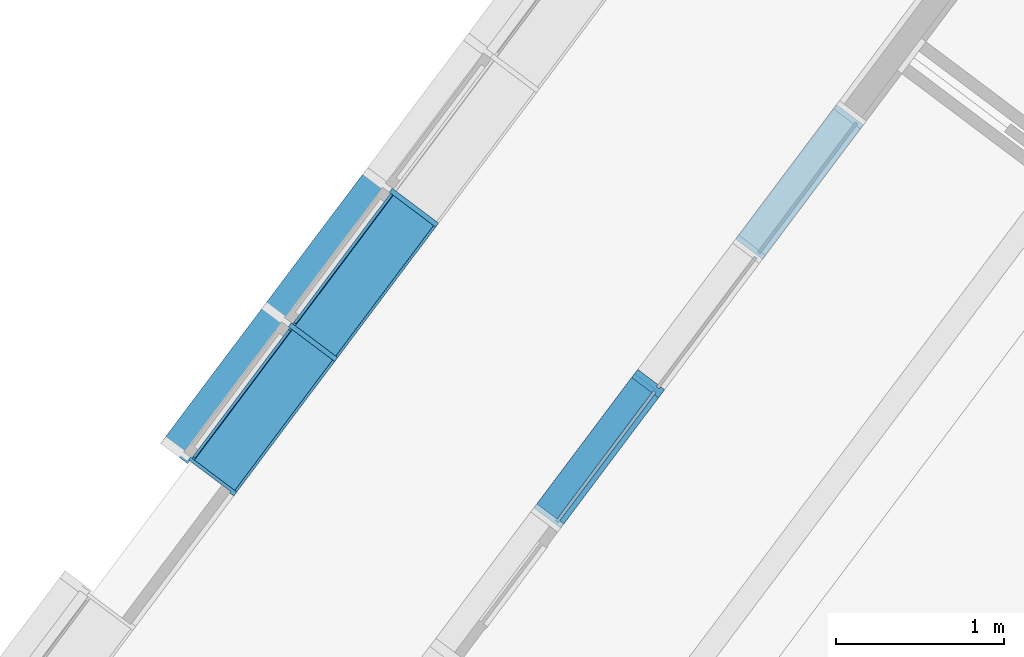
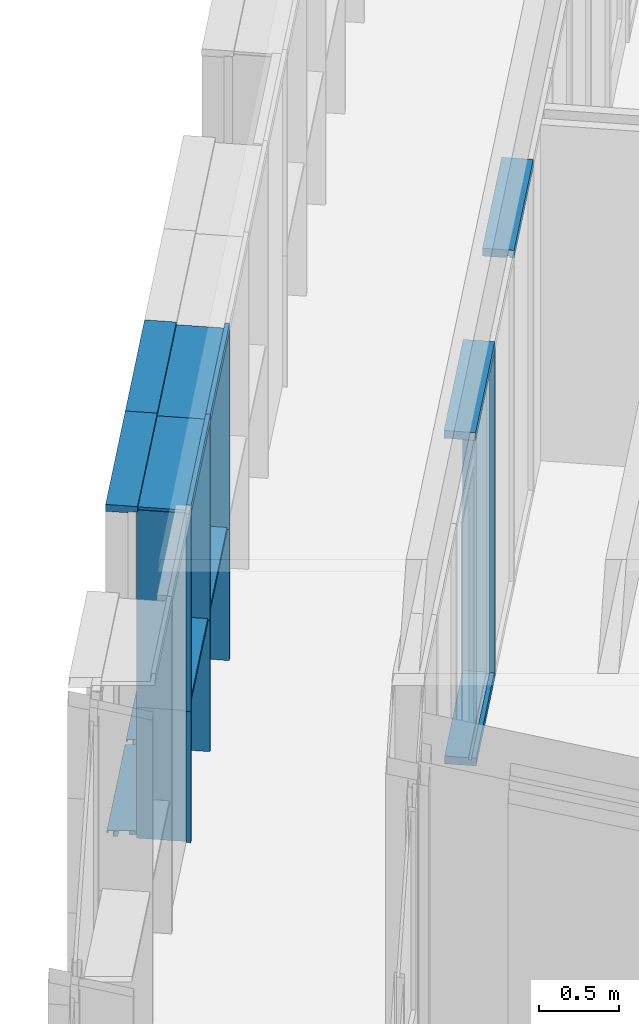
# One storey, part 55 of 243: 18 members, 3 elements without a shape of their own.
"""IFC2X3 building model written with IfcOpenShell, lengths in metres."""

from ifc_helpers import new_model, entity, si_unit, converted_unit, derived_unit, direction, frame, frame_2d, origin, place, context, subcontext, project, spatial, polyline, circle_curve, parameter, trimmed, segment, composite_curve, rectangle, outline, extrude, source, transform, mapped, material, type_object, type_shapes, element, aggregate, save


model = new_model("IFC2X3")

# Units and contexts
model_context = context("Model", 3, precision=1e-05, world=origin(), true_north=direction((6.123031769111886e-17, 1.0)))
body_context = subcontext(model_context, "Body", "Model", "MODEL_VIEW")
ifc_project = project(units=[si_unit("LENGTHUNIT", "METRE"), si_unit("AREAUNIT", "SQUARE_METRE"), si_unit("VOLUMEUNIT", "CUBIC_METRE"), converted_unit("PLANEANGLEUNIT", "DEGREE", entity("IfcRatioMeasure", 0.017453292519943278), si_unit("PLANEANGLEUNIT", "RADIAN"), dimensions=[0, 0, 0, 0, 0, 0, 0]), si_unit("MASSUNIT", "GRAM", prefix="KILO"), derived_unit("MASSDENSITYUNIT", [(si_unit("MASSUNIT", "GRAM", prefix="KILO"), 1), (si_unit("LENGTHUNIT", "METRE"), -3)]), derived_unit("IONCONCENTRATIONUNIT", [(si_unit("MASSUNIT", "GRAM", prefix="KILO"), 1), (si_unit("LENGTHUNIT", "METRE"), -3)]), derived_unit("MOMENTOFINERTIAUNIT", [(si_unit("LENGTHUNIT", "METRE"), 4)]), si_unit("TIMEUNIT", "SECOND"), si_unit("FREQUENCYUNIT", "HERTZ"), si_unit("THERMODYNAMICTEMPERATUREUNIT", "DEGREE_CELSIUS"), derived_unit("THERMALTRANSMITTANCEUNIT", [(si_unit("MASSUNIT", "GRAM", prefix="KILO"), 1), (si_unit("THERMODYNAMICTEMPERATUREUNIT", "KELVIN"), -1), (si_unit("TIMEUNIT", "SECOND"), -3)]), derived_unit("THERMALCONDUCTANCEUNIT", [(si_unit("MASSUNIT", "GRAM", prefix="KILO"), 1), (si_unit("THERMODYNAMICTEMPERATUREUNIT", "KELVIN"), -1), (si_unit("TIMEUNIT", "SECOND"), -3), (si_unit("LENGTHUNIT", "METRE"), 1)]), derived_unit("VOLUMETRICFLOWRATEUNIT", [(si_unit("LENGTHUNIT", "METRE"), 3), (si_unit("TIMEUNIT", "SECOND"), -1)]), derived_unit("MASSFLOWRATEUNIT", [(si_unit("MASSUNIT", "GRAM", prefix="KILO"), 1), (si_unit("TIMEUNIT", "SECOND"), -1)]), derived_unit("ROTATIONALFREQUENCYUNIT", [(si_unit("TIMEUNIT", "SECOND"), -1)]), si_unit("ELECTRICCURRENTUNIT", "AMPERE"), si_unit("ELECTRICVOLTAGEUNIT", "VOLT"), si_unit("POWERUNIT", "WATT"), si_unit("FORCEUNIT", "NEWTON", prefix="KILO"), si_unit("ILLUMINANCEUNIT", "LUX"), si_unit("LUMINOUSFLUXUNIT", "LUMEN"), si_unit("LUMINOUSINTENSITYUNIT", "CANDELA"), derived_unit("USERDEFINED", [(si_unit("MASSUNIT", "GRAM", prefix="KILO"), -1), (si_unit("LENGTHUNIT", "METRE"), -2), (si_unit("TIMEUNIT", "SECOND"), 3), (si_unit("LUMINOUSFLUXUNIT", "LUMEN"), 1)]), derived_unit("USERDEFINED", [(si_unit("MASSUNIT", "GRAM", prefix="KILO"), 1), (si_unit("TIMEUNIT", "SECOND"), -3), (si_unit("LENGTHUNIT", "METRE"), 3), (si_unit("ELECTRICCURRENTUNIT", "AMPERE"), -2)]), derived_unit("SOUNDPOWERUNIT", [(si_unit("MASSUNIT", "GRAM", prefix="KILO"), 1), (si_unit("TIMEUNIT", "SECOND"), -3), (si_unit("LENGTHUNIT", "METRE"), 2)]), derived_unit("SOUNDPRESSUREUNIT", [(si_unit("MASSUNIT", "GRAM", prefix="KILO"), 1), (si_unit("LENGTHUNIT", "METRE"), -1), (si_unit("TIMEUNIT", "SECOND"), -2)]), derived_unit("LINEARVELOCITYUNIT", [(si_unit("LENGTHUNIT", "METRE"), 1), (si_unit("TIMEUNIT", "SECOND"), -1)]), si_unit("PRESSUREUNIT", "PASCAL"), derived_unit("USERDEFINED", [(si_unit("MASSUNIT", "GRAM", prefix="KILO"), 1), (si_unit("LENGTHUNIT", "METRE"), -2), (si_unit("TIMEUNIT", "SECOND"), -2)]), derived_unit("LINEARFORCEUNIT", [(si_unit("MASSUNIT", "GRAM", prefix="KILO"), 1), (si_unit("TIMEUNIT", "SECOND"), -2)]), derived_unit("PLANARFORCEUNIT", [(si_unit("MASSUNIT", "GRAM", prefix="KILO"), 1), (si_unit("LENGTHUNIT", "METRE"), -1), (si_unit("TIMEUNIT", "SECOND"), -2)]), derived_unit("SPECIFICHEATCAPACITYUNIT", [(si_unit("THERMODYNAMICTEMPERATUREUNIT", "KELVIN"), -1), (si_unit("LENGTHUNIT", "METRE"), 2), (si_unit("TIMEUNIT", "SECOND"), -2)]), derived_unit("HEATINGVALUEUNIT", [(si_unit("LENGTHUNIT", "METRE"), 2), (si_unit("TIMEUNIT", "SECOND"), -2)]), derived_unit("VAPORPERMEABILITYUNIT", [(si_unit("LENGTHUNIT", "METRE"), -1), (si_unit("TIMEUNIT", "SECOND"), 1)]), derived_unit("DYNAMICVISCOSITYUNIT", [(si_unit("MASSUNIT", "GRAM", prefix="KILO"), 1), (si_unit("TIMEUNIT", "SECOND"), -1), (si_unit("LENGTHUNIT", "METRE"), -1)]), derived_unit("THERMALEXPANSIONCOEFFICIENTUNIT", [(si_unit("THERMODYNAMICTEMPERATUREUNIT", "KELVIN"), -1)]), derived_unit("MODULUSOFELASTICITYUNIT", [(si_unit("MASSUNIT", "GRAM", prefix="KILO"), 1), (si_unit("LENGTHUNIT", "METRE"), -1), (si_unit("TIMEUNIT", "SECOND"), -2)]), derived_unit("ISOTHERMALMOISTURECAPACITYUNIT", [(si_unit("LENGTHUNIT", "METRE"), 3), (si_unit("MASSUNIT", "GRAM", prefix="KILO"), -1)]), derived_unit("MOISTUREDIFFUSIVITYUNIT", [(si_unit("TIMEUNIT", "SECOND"), -1), (si_unit("LENGTHUNIT", "METRE"), 2)])], contexts=[model_context])

# Site, building, storey
site_placement = place(None, frame((0.0, 0.0, 235.0), z_axis=(0.0, 0.0, 1.0), x_axis=(-0.7996477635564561, 0.6004693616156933, 0.0)))
site = spatial("IfcSite", under=ifc_project, at=site_placement, Name="Default", CompositionType="ELEMENT")
building_placement = place(site_placement, origin())
building = spatial("IfcBuilding", under=site, at=building_placement, CompositionType="ELEMENT")
storey_placement = place(building_placement, origin())
storey = spatial("IfcBuildingStorey", under=building, at=storey_placement, Name="P0- Escola", CompositionType="ELEMENT", Elevation=0.0)

# Curtain wall, members
curtain_wall_type_1 = type_object("IfcCurtainWallType", Name="Muro cortina:MC- INT- a1", PredefinedType="NOTDEFINED")
curtain_wall_1_placement = place(storey_placement, origin())
curtain_wall_1 = element("IfcCurtainWall", 1, at=curtain_wall_1_placement, inside=storey, type_object=curtain_wall_type_1, Name="Muro cortina:MC- INT- a1", ObjectType="Muro cortina:MC- INT- a1")
ifc_material_1 = material(Name="_Fusta massisa- T1")
member_type_1 = type_object("IfcMemberType", Name="Montante rectangular:MC- Fusta- 20x6 cm- Neutre", PredefinedType="MULLION", material=ifc_material_1)
shared_shape_1 = source(origin(), body_context, "Body", "SweptSolid", [
    extrude(rectangle(XDim=0.2, YDim=0.060000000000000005, at=frame_2d((-4.85722573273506e-17, -3.469446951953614e-18), x_axis=(1.0, 0.0))), frame((-0.03, -0.060000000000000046, -1.0), z_axis=(0.0, 0.0, 1.0), x_axis=(0.0, -1.0, 0.0)), (0.0, 0.0, 1.0), 0.9999999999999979),
])
type_shapes(member_type_1, [shared_shape_1])
member_1_placement = place(curtain_wall_1_placement, frame((72.720147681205, -27.415189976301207, 2.565), z_axis=(0.0, -1.0, 0.0), x_axis=(0.0, 0.0, 1.0)))
member_1 = element("IfcMember", 2, at=member_1_placement, type_object=member_type_1, material=ifc_material_1, Name="Montante rectangular:MC- Fusta- 20x6 cm- Neutre", ObjectType="Montante rectangular:MC- Fusta- 20x6 cm- Neutre", context=body_context, shape_type="MappedRepresentation", body=[
    mapped(shared_shape_1, transform((0.0, 0.0, 0.0), scale=1.0)),
])
member_type_2 = type_object("IfcMemberType", Name="Montante rectangular:MC- Fusta- 20x6 cm- Esquerra", PredefinedType="MULLION", material=ifc_material_1)
shared_shape_2 = source(origin(), body_context, "Body", "SweptSolid", [
    extrude(outline(polyline([(-0.07000000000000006, -0.01875000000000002), (-0.04000000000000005, -0.01875000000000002), (-0.04000000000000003, -0.0037500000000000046), (-0.02, -0.0037500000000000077), (-0.019999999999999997, -0.018750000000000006), (0.13, -0.018749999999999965), (0.12999999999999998, 0.04125000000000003), (-0.06999999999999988, 0.04124999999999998), (-0.07000000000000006, -0.01875000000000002)])), frame((-0.041249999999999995, -0.029999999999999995, -1.0), z_axis=(0.0, 0.0, 1.0), x_axis=(0.0, -1.0, 0.0)), (0.0, 0.0, 1.0), 0.9999999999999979),
])
type_shapes(member_type_2, [shared_shape_2])
member_2_placement = place(curtain_wall_1_placement, frame((72.720147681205, -29.4151899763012, 2.565), z_axis=(0.0, -1.0, 0.0), x_axis=(0.0, 0.0, 1.0)))
member_2 = element("IfcMember", 3, at=member_2_placement, type_object=member_type_2, material=ifc_material_1, Name="Montante rectangular:MC- Fusta- 20x6 cm- Esquerra", ObjectType="Montante rectangular:MC- Fusta- 20x6 cm- Esquerra", context=body_context, shape_type="MappedRepresentation", body=[
    mapped(shared_shape_2, transform((0.0, 0.0, 0.0), scale=1.0)),
])
member_type_3 = type_object("IfcMemberType", Name="Montante rectangular:MC- Fusta- 20x6 cm- Centre", PredefinedType="MULLION", material=ifc_material_1)
shared_shape_3 = source(origin(), body_context, "Body", "SweptSolid", [
    extrude(outline(polyline([(-0.06000000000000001, -0.030000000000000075), (-0.03, -0.030000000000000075), (-0.029999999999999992, -0.015000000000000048), (-0.009999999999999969, -0.01499999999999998), (-0.009999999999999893, -0.030000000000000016), (0.14000000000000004, -0.029999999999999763), (0.13999999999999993, 0.030000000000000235), (-0.010000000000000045, 0.02999999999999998), (-0.01000000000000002, 0.014999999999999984), (-0.030000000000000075, 0.014999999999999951), (-0.03000000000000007, 0.029999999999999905), (-0.059999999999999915, 0.029999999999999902), (-0.06000000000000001, -0.030000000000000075)])), frame((0.0, -0.019999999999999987, -2.505000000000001), z_axis=(0.0, 0.0, 1.0), x_axis=(0.0, -1.0, 0.0)), (0.0, 0.0, 1.0), 2.5050000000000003),
])
type_shapes(member_type_3, [shared_shape_3])
member_3_placement = place(curtain_wall_1_placement, frame((72.720147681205, -27.415189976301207, 0.0), z_axis=(0.0, 0.0, -1.0), x_axis=(0.0, -1.0, 0.0)))
member_3 = element("IfcMember", 4, at=member_3_placement, type_object=member_type_3, material=ifc_material_1, Name="Montante rectangular:MC- Fusta- 20x6 cm- Centre", ObjectType="Montante rectangular:MC- Fusta- 20x6 cm- Centre", context=body_context, shape_type="MappedRepresentation", body=[
    mapped(shared_shape_3, transform((0.0, 0.0, 0.0), scale=1.0)),
])
member_type_4 = type_object("IfcMemberType", Name="Montante rectangular:MC- Fusta- 20x6 cm- Inferior", PredefinedType="MULLION", material=ifc_material_1)
shared_shape_4 = source(origin(), body_context, "Body", "SweptSolid", [
    extrude(outline(polyline([(-0.06999999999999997, -0.018750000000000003), (-0.039999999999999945, -0.018750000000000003), (-0.03999999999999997, -0.003750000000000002), (-0.019999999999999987, -0.0037500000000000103), (-0.019999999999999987, -0.018750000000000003), (0.13000000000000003, -0.018750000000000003), (0.13000000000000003, 0.041249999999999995), (-0.07000000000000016, 0.041249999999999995), (-0.06999999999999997, -0.018750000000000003)])), frame((-0.041249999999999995, -0.02999999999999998, -0.9399999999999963), z_axis=(0.0, 0.0, 1.0), x_axis=(0.0, -1.0, 0.0)), (0.0, 0.0, 1.0), 0.9399999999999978),
])
type_shapes(member_type_4, [shared_shape_4])
member_4_placement = place(curtain_wall_1_placement, frame((72.720147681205, -26.445189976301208, 0.0), z_axis=(0.0, 1.0, 0.0), x_axis=(0.0, 0.0, -1.0)))
member_4 = element("IfcMember", 5, at=member_4_placement, type_object=member_type_4, material=ifc_material_1, Name="Montante rectangular:MC- Fusta- 20x6 cm- Inferior", ObjectType="Montante rectangular:MC- Fusta- 20x6 cm- Inferior", context=body_context, shape_type="MappedRepresentation", body=[
    mapped(shared_shape_4, transform((0.0, 0.0, 0.0), scale=1.0)),
])
aggregate(curtain_wall_1, [member_2, member_1, member_3, member_4])

curtain_wall_type_2 = type_object("IfcCurtainWallType", Name="Muro cortina:MC- INT- k2", PredefinedType="NOTDEFINED")
curtain_wall_2_placement = place(storey_placement, origin())
curtain_wall_2 = element("IfcCurtainWall", 6, at=curtain_wall_2_placement, inside=storey, type_object=curtain_wall_type_2, Name="Muro cortina:MC- INT- k2", ObjectType="Muro cortina:MC- INT- k2")
member_type_5 = type_object("IfcMemberType", Name="Montante rectangular:MC- Fusta- 35x3 cm- Pati aules- Remat superior", PredefinedType="MULLION", material=ifc_material_1)
shared_shape_5 = source(origin(), body_context, "Body", "SweptSolid", [
    extrude(outline(polyline([(-0.12166666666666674, -0.02666666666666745), (0.21333333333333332, -0.02666666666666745), (0.2133333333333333, -0.006666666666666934), (-0.09166666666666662, -0.006666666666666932), (-0.09166666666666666, 0.03333333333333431), (-0.12166666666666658, 0.03333333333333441), (-0.12166666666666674, -0.02666666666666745)])), frame((-0.033333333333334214, -0.026666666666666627, -1.0), z_axis=(0.0, 0.0, 1.0), x_axis=(0.0, -1.0, 0.0)), (0.0, 0.0, 1.0), 0.9999999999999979),
])
type_shapes(member_type_5, [shared_shape_5])
member_5_placement = place(curtain_wall_2_placement, frame((74.44514768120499, -26.41519175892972, 2.565), z_axis=(0.0, -1.0, 0.0), x_axis=(0.0, 0.0, 1.0)))
member_5 = element("IfcMember", 7, at=member_5_placement, type_object=member_type_5, material=ifc_material_1, Name="Montante rectangular:MC- Fusta- 35x3 cm- Pati aules- Remat superior", ObjectType="Montante rectangular:MC- Fusta- 35x3 cm- Pati aules- Remat superior", context=body_context, shape_type="MappedRepresentation", body=[
    mapped(shared_shape_5, transform((0.0, 0.0, 0.0), scale=1.0)),
])
member_type_6 = type_object("IfcMemberType", Name="Montante rectangular:MC- Fusta- 35x3 cm- Centre", PredefinedType="MULLION", material=ifc_material_1)
shared_shape_6 = source(origin(), body_context, "Body", "SweptSolid", [
    extrude(rectangle(XDim=0.3450000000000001, YDim=0.030000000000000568, at=frame_2d((0.0, -1.3964523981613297e-16), x_axis=(1.0, 0.0))), frame((0.0, -0.07750000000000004, -1.0), z_axis=(0.0, 0.0, 1.0), x_axis=(0.0, -1.0, 0.0)), (0.0, 0.0, 1.0), 1.0),
])
type_shapes(member_type_6, [shared_shape_6])
member_6_placement = place(curtain_wall_2_placement, frame((74.44514768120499, -26.41519175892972, 0.0), z_axis=(0.0, 0.0, -1.0), x_axis=(0.0, -1.0, 0.0)))
member_6 = element("IfcMember", 8, at=member_6_placement, type_object=member_type_6, material=ifc_material_1, Name="Montante rectangular:MC- Fusta- 35x3 cm- Centre", ObjectType="Montante rectangular:MC- Fusta- 35x3 cm- Centre", context=body_context, shape_type="MappedRepresentation", body=[
    mapped(shared_shape_6, transform((0.0, 0.0, 0.0), scale=1.0)),
])
member_7_placement = place(curtain_wall_2_placement, frame((74.44514768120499, -27.415191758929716, 0.0), z_axis=(0.0, 0.0, -1.0), x_axis=(0.0, -1.0, 0.0)))
member_7 = element("IfcMember", 9, at=member_7_placement, type_object=member_type_6, material=ifc_material_1, Name="Montante rectangular:MC- Fusta- 35x3 cm- Centre", ObjectType="Montante rectangular:MC- Fusta- 35x3 cm- Centre", context=body_context, shape_type="MappedRepresentation", body=[
    mapped(shared_shape_6, transform((0.0, 0.0, 0.0), scale=1.0)),
])
member_type_7 = type_object("IfcMemberType", Name="Montante rectangular:MC- Fusta- 35x3 cm- Pati aules- Remat superior", PredefinedType="MULLION", material=ifc_material_1)
shared_shape_7 = source(origin(), body_context, "Body", "SweptSolid", [
    extrude(outline(polyline([(-0.12166666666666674, -0.02666666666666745), (0.21333333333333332, -0.02666666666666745), (0.2133333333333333, -0.006666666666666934), (-0.09166666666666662, -0.006666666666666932), (-0.09166666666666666, 0.03333333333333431), (-0.12166666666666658, 0.03333333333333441), (-0.12166666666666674, -0.02666666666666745)])), frame((-0.033333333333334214, -0.026666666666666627, -1.0), z_axis=(0.0, 0.0, 1.0), x_axis=(0.0, -1.0, 0.0)), (0.0, 0.0, 1.0), 0.9999999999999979),
])
type_shapes(member_type_7, [shared_shape_7])
member_8_placement = place(curtain_wall_2_placement, frame((74.44514768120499, -27.415191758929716, 2.565), z_axis=(0.0, -1.0, 0.0), x_axis=(0.0, 0.0, 1.0)))
member_8 = element("IfcMember", 10, at=member_8_placement, type_object=member_type_7, material=ifc_material_1, Name="Montante rectangular:MC- Fusta- 35x3 cm- Pati aules- Remat superior", ObjectType="Montante rectangular:MC- Fusta- 35x3 cm- Pati aules- Remat superior", context=body_context, shape_type="MappedRepresentation", body=[
    mapped(shared_shape_7, transform((0.0, 0.0, 0.0), scale=1.0)),
])
member_type_8 = type_object("IfcMemberType", Name="Montante rectangular:MC- Fusta- 35x3 cm- Pati aules- Remat esquerra", PredefinedType="MULLION", material=ifc_material_1)
shared_shape_8 = source(origin(), body_context, "Body", "SweptSolid", [
    extrude(outline(polyline([(-0.12500000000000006, -0.013333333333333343), (-0.09500000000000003, -0.013333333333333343), (-0.09499999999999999, -0.0033333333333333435), (0.22000000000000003, -0.003333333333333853), (0.22000000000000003, 0.016666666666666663), (-0.12500000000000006, 0.01666666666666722), (-0.12500000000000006, -0.013333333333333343)])), frame((-0.00166666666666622, -0.03000000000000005, -1.0), z_axis=(0.0, 0.0, 1.0), x_axis=(0.0, -1.0, 0.0)), (0.0, 0.0, 1.0), 1.0),
])
type_shapes(member_type_8, [shared_shape_8])
member_9_placement = place(curtain_wall_2_placement, frame((74.44514768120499, -25.415191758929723, 0.0), z_axis=(0.0, 0.0, -1.0), x_axis=(0.0, -1.0, 0.0)))
member_9 = element("IfcMember", 11, at=member_9_placement, type_object=member_type_8, material=ifc_material_1, Name="Montante rectangular:MC- Fusta- 35x3 cm- Pati aules- Remat esquerra", ObjectType="Montante rectangular:MC- Fusta- 35x3 cm- Pati aules- Remat esquerra", context=body_context, shape_type="MappedRepresentation", body=[
    mapped(shared_shape_8, transform((0.0, 0.0, 0.0), scale=1.0)),
])
member_type_9 = type_object("IfcMemberType", Name="Montante rectangular:MC- Fusta- 35x3 cm- Pati aules- Prestatge", PredefinedType="MULLION", material=ifc_material_1)
shared_shape_9 = source(origin(), body_context, "Body", "SweptSolid", [
    extrude(rectangle(XDim=0.30000000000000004, YDim=0.03000000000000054, at=frame_2d((0.0, -1.231653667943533e-16), x_axis=(1.0, 0.0))), frame((0.0, -0.07000000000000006, -0.9699999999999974), z_axis=(0.0, 0.0, 1.0), x_axis=(0.0, -1.0, 0.0)), (0.0, 0.0, 1.0), 0.969999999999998),
])
type_shapes(member_type_9, [shared_shape_9])
member_10_placement = place(curtain_wall_2_placement, frame((74.44514768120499, -26.40019175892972, 1.0), z_axis=(0.0, -1.0, 0.0), x_axis=(0.0, 0.0, 1.0)))
member_10 = element("IfcMember", 12, at=member_10_placement, type_object=member_type_9, material=ifc_material_1, Name="Montante rectangular:MC- Fusta- 35x3 cm- Pati aules- Prestatge", ObjectType="Montante rectangular:MC- Fusta- 35x3 cm- Pati aules- Prestatge", context=body_context, shape_type="MappedRepresentation", body=[
    mapped(shared_shape_9, transform((0.0, 0.0, 0.0), scale=1.0)),
])
member_11_placement = place(curtain_wall_2_placement, frame((74.44514768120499, -27.400191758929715, 1.0), z_axis=(0.0, -1.0, 0.0), x_axis=(0.0, 0.0, 1.0)))
member_11 = element("IfcMember", 13, at=member_11_placement, type_object=member_type_9, material=ifc_material_1, Name="Montante rectangular:MC- Fusta- 35x3 cm- Pati aules- Prestatge", ObjectType="Montante rectangular:MC- Fusta- 35x3 cm- Pati aules- Prestatge", context=body_context, shape_type="MappedRepresentation", body=[
    mapped(shared_shape_9, transform((0.0, 0.0, 0.0), scale=1.0)),
])
member_type_10 = type_object("IfcMemberType", Name="Montante rectangular:MC- Fusta- 35x3 cm- Centre", PredefinedType="MULLION", material=ifc_material_1)
shared_shape_10 = source(origin(), body_context, "Body", "SweptSolid", [
    extrude(rectangle(XDim=0.3450000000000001, YDim=0.030000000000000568, at=frame_2d((0.0, -1.3964523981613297e-16), x_axis=(1.0, 0.0))), frame((0.0, -0.07750000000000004, -1.504999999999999), z_axis=(0.0, 0.0, 1.0), x_axis=(0.0, -1.0, 0.0)), (0.0, 0.0, 1.0), 1.504999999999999),
])
type_shapes(member_type_10, [shared_shape_10])
member_12_placement = place(curtain_wall_2_placement, frame((74.44514768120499, -26.41519175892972, 1.0), z_axis=(0.0, 0.0, -1.0), x_axis=(0.0, -1.0, 0.0)))
member_12 = element("IfcMember", 14, at=member_12_placement, type_object=member_type_10, material=ifc_material_1, Name="Montante rectangular:MC- Fusta- 35x3 cm- Centre", ObjectType="Montante rectangular:MC- Fusta- 35x3 cm- Centre", context=body_context, shape_type="MappedRepresentation", body=[
    mapped(shared_shape_10, transform((0.0, 0.0, 0.0), scale=1.0)),
])
member_13_placement = place(curtain_wall_2_placement, frame((74.44514768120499, -27.415191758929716, 1.0), z_axis=(0.0, 0.0, -1.0), x_axis=(0.0, -1.0, 0.0)))
member_13 = element("IfcMember", 15, at=member_13_placement, type_object=member_type_10, material=ifc_material_1, Name="Montante rectangular:MC- Fusta- 35x3 cm- Centre", ObjectType="Montante rectangular:MC- Fusta- 35x3 cm- Centre", context=body_context, shape_type="MappedRepresentation", body=[
    mapped(shared_shape_10, transform((0.0, 0.0, 0.0), scale=1.0)),
])
member_type_11 = type_object("IfcMemberType", Name="Montante rectangular:MC- Fusta- 35x3 cm- Pati aules- Remat esquerra", PredefinedType="MULLION", material=ifc_material_1)
shared_shape_11 = source(origin(), body_context, "Body", "SweptSolid", [
    extrude(outline(polyline([(-0.12500000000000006, -0.013333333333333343), (-0.09500000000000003, -0.013333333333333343), (-0.09499999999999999, -0.0033333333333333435), (0.22000000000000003, -0.003333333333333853), (0.22000000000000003, 0.016666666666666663), (-0.12500000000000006, 0.01666666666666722), (-0.12500000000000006, -0.013333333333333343)])), frame((-0.00166666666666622, -0.03000000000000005, -1.504999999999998), z_axis=(0.0, 0.0, 1.0), x_axis=(0.0, -1.0, 0.0)), (0.0, 0.0, 1.0), 1.504999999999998),
])
type_shapes(member_type_11, [shared_shape_11])
member_14_placement = place(curtain_wall_2_placement, frame((74.44514768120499, -25.415191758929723, 1.0), z_axis=(0.0, 0.0, -1.0), x_axis=(0.0, -1.0, 0.0)))
member_14 = element("IfcMember", 16, at=member_14_placement, type_object=member_type_11, material=ifc_material_1, Name="Montante rectangular:MC- Fusta- 35x3 cm- Pati aules- Remat esquerra", ObjectType="Montante rectangular:MC- Fusta- 35x3 cm- Pati aules- Remat esquerra", context=body_context, shape_type="MappedRepresentation", body=[
    mapped(shared_shape_11, transform((0.0, 0.0, 0.0), scale=1.0)),
])
aggregate(curtain_wall_2, [member_9, member_5, member_6, member_8, member_7, member_10, member_11, member_14, member_12, member_13])

curtain_wall_type_3 = type_object("IfcCurtainWallType", Name="Muro cortina:MC- EXT- MC5", PredefinedType="NOTDEFINED")
curtain_wall_3_placement = place(storey_placement, origin())
curtain_wall_3 = element("IfcCurtainWall", 17, at=curtain_wall_3_placement, inside=storey, type_object=curtain_wall_type_3, Name="Muro cortina:MC- EXT- MC5", ObjectType="Muro cortina:MC- EXT- MC5")
ifc_material_2 = material(Name="_Alumini- T1- Perfil")
member_type_12 = type_object("IfcMemberType", Name="Montante rectangular:MC- Alu- 140x52,5 cm- Fa patis- inferior", PredefinedType="MULLION", material=ifc_material_2)
shared_shape_12 = source(origin(), body_context, "Body", "SweptSolid", [
    extrude(outline(composite_curve([segment(polyline([(-0.144167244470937, -0.02586710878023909), (-0.12786724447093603, -0.025867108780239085)]), True, "CONTINUOUS"), segment(polyline([(-0.12786724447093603, -0.025867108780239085), (-0.12786724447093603, -0.02316710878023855)]), True, "CONTINUOUS"), segment(polyline([(-0.12786724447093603, -0.02316710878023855), (-0.0678672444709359, -0.02316710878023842)]), True, "CONTINUOUS"), segment(polyline([(-0.0678672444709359, -0.02316710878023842), (0.07031215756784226, -0.010722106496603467)]), True, "CONTINUOUS"), segment(trimmed(circle_curve(frame_2d((0.07013275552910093, -0.008730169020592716), x_axis=(0.0897010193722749, -0.9959687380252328)), 0.0019999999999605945), [parameter(0.0)], [parameter(84.8535928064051)], True, "PARAMETER"), True, "CONTINUOUS"), segment(polyline([(0.07213275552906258, -0.00873016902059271), (0.07213275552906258, 0.0062663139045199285)]), True, "CONTINUOUS"), segment(trimmed(circle_curve(frame_2d((0.070132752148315, 0.006266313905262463), x_axis=(1.0, 0.0)), 0.002000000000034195), [parameter(0.0)], [parameter(90.00000002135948)], True, "PARAMETER"), True, "CONTINUOUS"), segment(polyline([(0.070132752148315, 0.00826631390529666), (0.06213275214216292, 0.008266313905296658)]), True, "CONTINUOUS"), segment(polyline([(0.06213275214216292, 0.008266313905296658), (0.06213275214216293, 0.006266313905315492)]), True, "CONTINUOUS"), segment(polyline([(0.06213275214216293, 0.006266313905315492), (0.06963275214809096, 0.006266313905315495)]), True, "CONTINUOUS"), segment(trimmed(circle_curve(frame_2d((0.06963275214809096, 0.005766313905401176), x_axis=(0.0, 1.0)), 0.0004999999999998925), [parameter(269.99999999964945)], [parameter(0.0)], True, "PARAMETER"), False, "CONTINUOUS"), segment(polyline([(0.07013275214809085, 0.0057663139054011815), (0.07013275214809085, -0.008730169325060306)]), True, "CONTINUOUS"), segment(polyline([(0.07013275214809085, -0.008730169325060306), (0.03213275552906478, -0.012152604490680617)]), True, "CONTINUOUS"), segment(polyline([(0.03213275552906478, -0.012152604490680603), (0.03213275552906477, 0.02913289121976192)]), True, "CONTINUOUS"), segment(polyline([(0.03213275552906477, 0.02913289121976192), (0.0021327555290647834, 0.02913289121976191)]), True, "CONTINUOUS"), segment(polyline([(0.0021327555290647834, 0.02913289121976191), (0.0021327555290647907, 0.027132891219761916)]), True, "CONTINUOUS"), segment(polyline([(0.0021327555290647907, 0.027132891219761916), (0.03013275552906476, 0.027132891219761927)]), True, "CONTINUOUS"), segment(polyline([(0.03013275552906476, 0.02713289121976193), (0.03013275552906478, -0.012332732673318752)]), True, "CONTINUOUS"), segment(polyline([(0.03013275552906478, -0.012332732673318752), (-0.06786724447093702, -0.021159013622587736)]), True, "CONTINUOUS"), segment(polyline([(-0.06786724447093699, -0.021159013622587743), (-0.067867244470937, 0.0091328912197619)]), True, "CONTINUOUS"), segment(polyline([(-0.06786724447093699, 0.0091328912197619), (-0.14416724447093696, 0.009132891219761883)]), True, "CONTINUOUS"), segment(polyline([(-0.14416724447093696, 0.009132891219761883), (-0.144167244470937, -0.02586710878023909)]), True, "CONTINUOUS")], self_intersect=False)), frame((-0.029132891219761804, -0.06786724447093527, -0.9474999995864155), z_axis=(0.0, 0.0, 1.0), x_axis=(0.0, -1.0, 0.0)), (0.0, 0.0, 1.0), 0.9474999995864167),
])
type_shapes(member_type_12, [shared_shape_12])
member_15_placement = place(curtain_wall_3_placement, frame((74.7451476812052, -25.441441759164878, -0.02), z_axis=(0.0, 1.0, 0.0), x_axis=(0.0, 0.0, -1.0)))
member_15 = element("IfcMember", 18, at=member_15_placement, type_object=member_type_12, material=ifc_material_2, Name="Montante rectangular:MC- Alu- 140x52,5 cm- Fa patis- inferior", ObjectType="Montante rectangular:MC- Alu- 140x52,5 cm- Fa patis- inferior", context=body_context, shape_type="MappedRepresentation", body=[
    mapped(shared_shape_12, transform((0.0, 0.0, 0.0), scale=1.0)),
])
member_type_13 = type_object("IfcMemberType", Name="Montante rectangular:MC- Alu- 140x52,5 cm- Fa patis- inferior", PredefinedType="MULLION", material=ifc_material_2)
shared_shape_13 = source(origin(), body_context, "Body", "SweptSolid", [
    extrude(outline(composite_curve([segment(polyline([(-0.144167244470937, -0.025867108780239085), (-0.12786724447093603, -0.02586710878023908)]), True, "CONTINUOUS"), segment(polyline([(-0.12786724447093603, -0.02586710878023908), (-0.12786724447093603, -0.023167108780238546)]), True, "CONTINUOUS"), segment(polyline([(-0.12786724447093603, -0.023167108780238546), (-0.0678672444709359, -0.023167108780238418)]), True, "CONTINUOUS"), segment(polyline([(-0.0678672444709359, -0.023167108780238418), (0.07031215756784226, -0.010722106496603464)]), True, "CONTINUOUS"), segment(trimmed(circle_curve(frame_2d((0.07013275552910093, -0.008730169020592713), x_axis=(0.0897010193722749, -0.9959687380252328)), 0.0019999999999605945), [parameter(0.0)], [parameter(84.8535928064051)], True, "PARAMETER"), True, "CONTINUOUS"), segment(polyline([(0.07213275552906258, -0.008730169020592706), (0.07213275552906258, 0.006266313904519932)]), True, "CONTINUOUS"), segment(trimmed(circle_curve(frame_2d((0.07013275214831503, 0.006266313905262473), x_axis=(1.0, 0.0)), 0.0020000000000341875), [parameter(0.0)], [parameter(90.00000002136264)], True, "PARAMETER"), True, "CONTINUOUS"), segment(polyline([(0.070132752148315, 0.008266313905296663), (0.06213275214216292, 0.008266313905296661)]), True, "CONTINUOUS"), segment(polyline([(0.06213275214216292, 0.008266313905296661), (0.06213275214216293, 0.006266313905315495)]), True, "CONTINUOUS"), segment(polyline([(0.06213275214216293, 0.006266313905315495), (0.06963275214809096, 0.006266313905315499)]), True, "CONTINUOUS"), segment(trimmed(circle_curve(frame_2d((0.06963275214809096, 0.005766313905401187), x_axis=(0.0, 1.0)), 0.0004999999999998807), [parameter(269.9999999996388)], [parameter(0.0)], True, "PARAMETER"), False, "CONTINUOUS"), segment(polyline([(0.07013275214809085, 0.005766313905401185), (0.07013275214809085, -0.008730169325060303)]), True, "CONTINUOUS"), segment(polyline([(0.07013275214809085, -0.008730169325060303), (0.03213275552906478, -0.012152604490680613)]), True, "CONTINUOUS"), segment(polyline([(0.03213275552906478, -0.0121526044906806), (0.03213275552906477, 0.029132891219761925)]), True, "CONTINUOUS"), segment(polyline([(0.03213275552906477, 0.029132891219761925), (0.0021327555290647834, 0.029132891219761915)]), True, "CONTINUOUS"), segment(polyline([(0.0021327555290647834, 0.029132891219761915), (0.0021327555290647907, 0.02713289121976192)]), True, "CONTINUOUS"), segment(polyline([(0.0021327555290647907, 0.02713289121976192), (0.03013275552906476, 0.02713289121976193)]), True, "CONTINUOUS"), segment(polyline([(0.03013275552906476, 0.027132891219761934), (0.03013275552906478, -0.012332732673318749)]), True, "CONTINUOUS"), segment(polyline([(0.03013275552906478, -0.012332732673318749), (-0.06786724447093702, -0.021159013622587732)]), True, "CONTINUOUS"), segment(polyline([(-0.06786724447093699, -0.02115901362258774), (-0.067867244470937, 0.009132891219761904)]), True, "CONTINUOUS"), segment(polyline([(-0.06786724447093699, 0.009132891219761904), (-0.14416724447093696, 0.009132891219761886)]), True, "CONTINUOUS"), segment(polyline([(-0.14416724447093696, 0.009132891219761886), (-0.144167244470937, -0.025867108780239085)]), True, "CONTINUOUS")], self_intersect=False)), frame((-0.029132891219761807, -0.06786724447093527, -0.9737499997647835), z_axis=(0.0, 0.0, 1.0), x_axis=(0.0, -1.0, 0.0)), (0.0, 0.0, 1.0), 0.9737499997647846),
])
type_shapes(member_type_13, [shared_shape_13])
member_16_placement = place(curtain_wall_3_placement, frame((74.7451476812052, -26.441441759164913, -0.02), z_axis=(0.0, 1.0, 0.0), x_axis=(0.0, 0.0, -1.0)))
member_16 = element("IfcMember", 19, at=member_16_placement, type_object=member_type_13, material=ifc_material_2, Name="Montante rectangular:MC- Alu- 140x52,5 cm- Fa patis- inferior", ObjectType="Montante rectangular:MC- Alu- 140x52,5 cm- Fa patis- inferior", context=body_context, shape_type="MappedRepresentation", body=[
    mapped(shared_shape_13, transform((0.0, 0.0, 0.0), scale=1.0)),
])
member_type_14 = type_object("IfcMemberType", Name="Montante rectangular:MC- Alu- 140x52,5 cm- Fa patis- Superior", PredefinedType="MULLION", material=ifc_material_2)
shared_shape_14 = source(origin(), body_context, "Body", "SweptSolid", [
    extrude(outline(polyline([(-0.026333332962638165, -0.021249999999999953), (0.11366666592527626, -0.021249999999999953), (0.11366666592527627, 0.031250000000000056), (-0.08733333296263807, 0.03125000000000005), (-0.0873333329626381, -0.010000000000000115), (-0.026333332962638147, -0.010000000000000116), (-0.026333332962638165, -0.021249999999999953)])), frame((-0.031250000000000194, -0.02733333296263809, -1.0), z_axis=(0.0, 0.0, 1.0), x_axis=(0.0, -1.0, 0.0)), (0.0, 0.0, 1.0), 1.0000000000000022),
])
type_shapes(member_type_14, [shared_shape_14])
member_17_placement = place(curtain_wall_3_placement, frame((74.7451476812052, -27.415191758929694, 2.545), z_axis=(0.0, -1.0, 0.0), x_axis=(0.0, 0.0, 1.0)))
member_17 = element("IfcMember", 20, at=member_17_placement, type_object=member_type_14, material=ifc_material_2, Name="Montante rectangular:MC- Alu- 140x52,5 cm- Fa patis- Superior", ObjectType="Montante rectangular:MC- Alu- 140x52,5 cm- Fa patis- Superior", context=body_context, shape_type="MappedRepresentation", body=[
    mapped(shared_shape_14, transform((0.0, 0.0, 0.0), scale=1.0)),
])
member_type_15 = type_object("IfcMemberType", Name="Montante rectangular:MC- Alu- 140x52,5 cm- Fa patis- Superior", PredefinedType="MULLION", material=ifc_material_2)
shared_shape_15 = source(origin(), body_context, "Body", "SweptSolid", [
    extrude(outline(polyline([(-0.026333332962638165, -0.021249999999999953), (0.11366666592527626, -0.021249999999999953), (0.11366666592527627, 0.031250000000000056), (-0.08733333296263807, 0.03125000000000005), (-0.0873333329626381, -0.010000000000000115), (-0.026333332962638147, -0.010000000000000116), (-0.026333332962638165, -0.021249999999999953)])), frame((-0.031250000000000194, -0.02733333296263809, -1.0262500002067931), z_axis=(0.0, 0.0, 1.0), x_axis=(0.0, -1.0, 0.0)), (0.0, 0.0, 1.0), 1.0262500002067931),
])
type_shapes(member_type_15, [shared_shape_15])
member_18_placement = place(curtain_wall_3_placement, frame((74.7451476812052, -26.415191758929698, 2.545), z_axis=(0.0, -1.0, 0.0), x_axis=(0.0, 0.0, 1.0)))
member_18 = element("IfcMember", 21, at=member_18_placement, type_object=member_type_15, material=ifc_material_2, Name="Montante rectangular:MC- Alu- 140x52,5 cm- Fa patis- Superior", ObjectType="Montante rectangular:MC- Alu- 140x52,5 cm- Fa patis- Superior", context=body_context, shape_type="MappedRepresentation", body=[
    mapped(shared_shape_15, transform((0.0, 0.0, 0.0), scale=1.0)),
])
aggregate(curtain_wall_3, [member_18, member_16, member_17, member_15])

save(model, "model.ifc")
